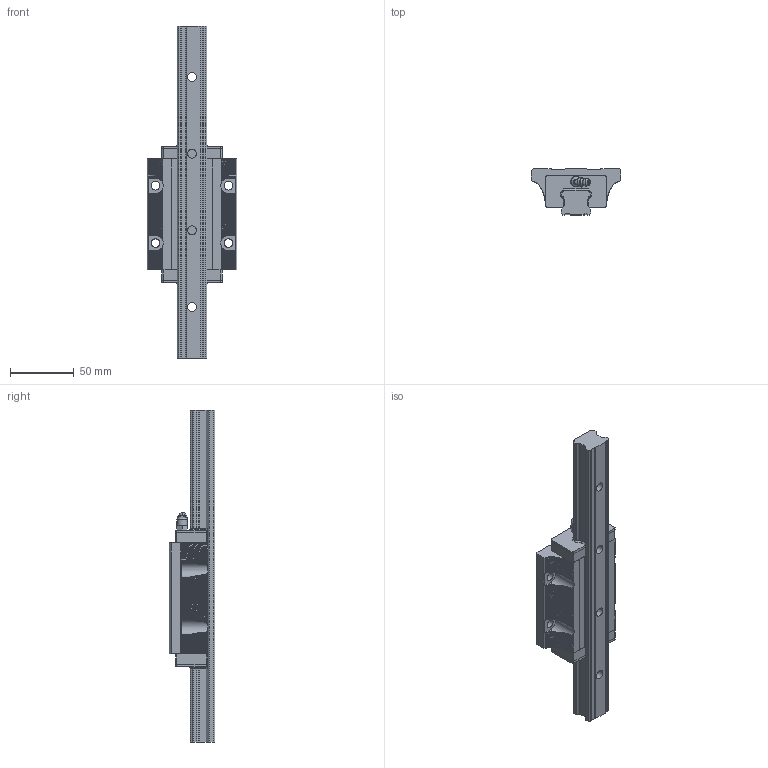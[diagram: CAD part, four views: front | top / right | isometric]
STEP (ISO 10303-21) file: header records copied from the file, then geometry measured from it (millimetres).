
FILE_DESCRIPTION((''),'2;1');
FILE_NAME('C:\Documents and Settings\土屋\My Documents\土屋移動用フォルダ\製品 (図面)\カタログ用3D\リニアガイド\EGH-FL\EGH25FL.stp','2015-12-16T09:24:24',('y'),(''),'Autodesk Inventor 11','Autodesk Inventor 11','');
FILE_SCHEMA(('AUTOMOTIVE_DESIGN { 1 0 10303 214 1 1 1 1 }'));
Length unit declared in the file: millimetre
Products named in the file (3): EGH25FL; EGH25FLレール; EGH25FLキャリッジ
Assembly tree (2 placements, depth 2):
  EGH25FL
    EGH25FLレール
    EGH25FLキャリッジ
Bounding box: 70 x 36 x 260 mm (x, y, z)
Volume: 234728.9 mm3; surface area: 59604.7 mm2
Topology: 7 solids, 7 shells, 549 faces, 1555 edges, 1027 vertices
Faces by surface type: plane 440, cylinder 93, bspline 10, cone 4, torus 1, sphere 1
Full cylindrical faces by diameter (mm): 6 x5, 6.8 x4, 7 x4, 7.75 x1, 8 x1, 11 x4
Entity records: 18471 total; most frequent: CARTESIAN_POINT 4154, ORIENTED_EDGE 3050, DIRECTION 2833, EDGE_CURVE 1525, VECTOR 1119, LINE 1119, VERTEX_POINT 1021, AXIS2_PLACEMENT_3D 857
